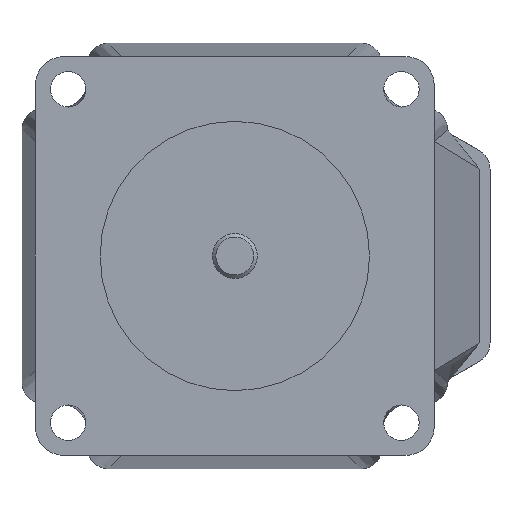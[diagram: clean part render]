
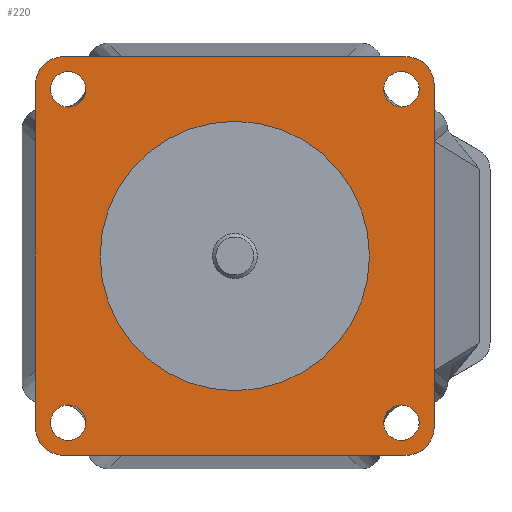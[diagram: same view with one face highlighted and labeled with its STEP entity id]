
A CAD part, left-side view. The second image highlights one B-rep face of the part: STEP entity #220.
In plain terms, the highlighted planar face has unit normal (-1, 0, 0).
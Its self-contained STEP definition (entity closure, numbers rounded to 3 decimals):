
#220 = ADVANCED_FACE( '', ( #555, #556, #557, #558, #559, #560 ), #561, .T. );
#555 = FACE_BOUND( '', #2549, .T. );
#556 = FACE_BOUND( '', #2550, .T. );
#557 = FACE_BOUND( '', #2551, .T. );
#558 = FACE_BOUND( '', #2552, .T. );
#559 = FACE_OUTER_BOUND( '', #2553, .T. );
#560 = FACE_BOUND( '', #2554, .T. );
#561 = PLANE( '', #2555 );
#2549 = EDGE_LOOP( '', ( #3613 ) );
#2550 = EDGE_LOOP( '', ( #3614 ) );
#2551 = EDGE_LOOP( '', ( #3615 ) );
#2552 = EDGE_LOOP( '', ( #3616 ) );
#2553 = EDGE_LOOP( '', ( #3617, #3618, #3619, #3620, #3621, #3622, #3623, #3624 ) );
#2554 = EDGE_LOOP( '', ( #3625 ) );
#2555 = AXIS2_PLACEMENT_3D( '', #3626, #3627, #3628 );
#3613 = ORIENTED_EDGE( '', *, *, #3824, .F. );
#3614 = ORIENTED_EDGE( '', *, *, #3832, .F. );
#3615 = ORIENTED_EDGE( '', *, *, #3834, .F. );
#3616 = ORIENTED_EDGE( '', *, *, #3836, .F. );
#3617 = ORIENTED_EDGE( '', *, *, #3710, .T. );
#3618 = ORIENTED_EDGE( '', *, *, #3997, .T. );
#3619 = ORIENTED_EDGE( '', *, *, #3895, .T. );
#3620 = ORIENTED_EDGE( '', *, *, #3998, .T. );
#3621 = ORIENTED_EDGE( '', *, *, #3940, .T. );
#3622 = ORIENTED_EDGE( '', *, *, #3999, .T. );
#3623 = ORIENTED_EDGE( '', *, *, #3924, .T. );
#3624 = ORIENTED_EDGE( '', *, *, #4000, .T. );
#3625 = ORIENTED_EDGE( '', *, *, #4001, .F. );
#3626 = CARTESIAN_POINT( '', ( -98., 24.2, 24.2 ) );
#3627 = DIRECTION( '', ( -1., 0., 0. ) );
#3628 = DIRECTION( '', ( 0., 0., 1. ) );
#3710 = EDGE_CURVE( '', #4095, #4093, #4096, .T. );
#3824 = EDGE_CURVE( '', #4296, #4296, #4297, .T. );
#3832 = EDGE_CURVE( '', #4308, #4308, #4309, .T. );
#3834 = EDGE_CURVE( '', #4312, #4312, #4313, .T. );
#3836 = EDGE_CURVE( '', #4316, #4316, #4317, .T. );
#3895 = EDGE_CURVE( '', #4415, #4413, #4416, .T. );
#3924 = EDGE_CURVE( '', #4467, #4465, #4468, .T. );
#3940 = EDGE_CURVE( '', #4492, #4490, #4493, .T. );
#3997 = EDGE_CURVE( '', #4093, #4415, #4572, .T. );
#3998 = EDGE_CURVE( '', #4413, #4492, #4573, .T. );
#3999 = EDGE_CURVE( '', #4490, #4467, #4574, .T. );
#4000 = EDGE_CURVE( '', #4465, #4095, #4575, .T. );
#4001 = EDGE_CURVE( '', #4576, #4576, #4577, .T. );
#4093 = VERTEX_POINT( '', #4745 );
#4095 = VERTEX_POINT( '', #4748 );
#4096 = LINE( '', #4749, #4750 );
#4296 = VERTEX_POINT( '', #5061 );
#4297 = CIRCLE( '', #5062, 2.5 );
#4308 = VERTEX_POINT( '', #5077 );
#4309 = CIRCLE( '', #5078, 2.5 );
#4312 = VERTEX_POINT( '', #5081 );
#4313 = CIRCLE( '', #5082, 2.5 );
#4316 = VERTEX_POINT( '', #5085 );
#4317 = CIRCLE( '', #5086, 2.5 );
#4413 = VERTEX_POINT( '', #5305 );
#4415 = VERTEX_POINT( '', #5308 );
#4416 = LINE( '', #5309, #5310 );
#4465 = VERTEX_POINT( '', #5429 );
#4467 = VERTEX_POINT( '', #5432 );
#4468 = LINE( '', #5433, #5434 );
#4490 = VERTEX_POINT( '', #5469 );
#4492 = VERTEX_POINT( '', #5472 );
#4493 = LINE( '', #5473, #5474 );
#4572 = CIRCLE( '', #5631, 4. );
#4573 = CIRCLE( '', #5632, 4. );
#4574 = CIRCLE( '', #5633, 4. );
#4575 = CIRCLE( '', #5634, 4. );
#4576 = VERTEX_POINT( '', #5635 );
#4577 = CIRCLE( '', #5636, 19.05 );
#4745 = CARTESIAN_POINT( '', ( -98., 24.2, 28.2 ) );
#4748 = CARTESIAN_POINT( '', ( -98., -24.2, 28.2 ) );
#4749 = CARTESIAN_POINT( '', ( -98., -20.641, 28.2 ) );
#4750 = VECTOR( '', #5704, 1000. );
#5061 = CARTESIAN_POINT( '', ( -98., 23.57, 21.07 ) );
#5062 = AXIS2_PLACEMENT_3D( '', #5871, #5872, #5873 );
#5077 = CARTESIAN_POINT( '', ( -98., 23.57, -26.07 ) );
#5078 = AXIS2_PLACEMENT_3D( '', #5887, #5888, #5889 );
#5081 = CARTESIAN_POINT( '', ( -98., -23.57, -26.07 ) );
#5082 = AXIS2_PLACEMENT_3D( '', #5893, #5894, #5895 );
#5085 = CARTESIAN_POINT( '', ( -98., -23.57, 21.07 ) );
#5086 = AXIS2_PLACEMENT_3D( '', #5899, #5900, #5901 );
#5305 = CARTESIAN_POINT( '', ( -98., 28.2, -24.2 ) );
#5308 = CARTESIAN_POINT( '', ( -98., 28.2, 24.2 ) );
#5309 = CARTESIAN_POINT( '', ( -98., 28.2, 24.2 ) );
#5310 = VECTOR( '', #5948, 1000. );
#5429 = CARTESIAN_POINT( '', ( -98., -28.2, 24.2 ) );
#5432 = CARTESIAN_POINT( '', ( -98., -28.2, -24.2 ) );
#5433 = CARTESIAN_POINT( '', ( -98., -28.2, -20.641 ) );
#5434 = VECTOR( '', #5961, 1000. );
#5469 = CARTESIAN_POINT( '', ( -98., -24.2, -28.2 ) );
#5472 = CARTESIAN_POINT( '', ( -98., 24.2, -28.2 ) );
#5473 = CARTESIAN_POINT( '', ( -98., 24.2, -28.2 ) );
#5474 = VECTOR( '', #5979, 1000. );
#5631 = AXIS2_PLACEMENT_3D( '', #6047, #6048, #6049 );
#5632 = AXIS2_PLACEMENT_3D( '', #6050, #6051, #6052 );
#5633 = AXIS2_PLACEMENT_3D( '', #6053, #6054, #6055 );
#5634 = AXIS2_PLACEMENT_3D( '', #6056, #6057, #6058 );
#5635 = CARTESIAN_POINT( '', ( -98., -19.05, 0. ) );
#5636 = AXIS2_PLACEMENT_3D( '', #6059, #6060, #6061 );
#5704 = DIRECTION( '', ( 0., 1., 0. ) );
#5871 = CARTESIAN_POINT( '', ( -98., 23.57, 23.57 ) );
#5872 = DIRECTION( '', ( -1., 0., 0. ) );
#5873 = DIRECTION( '', ( 0., 0., -1. ) );
#5887 = CARTESIAN_POINT( '', ( -98., 23.57, -23.57 ) );
#5888 = DIRECTION( '', ( -1., 0., 0. ) );
#5889 = DIRECTION( '', ( 0., 0., -1. ) );
#5893 = CARTESIAN_POINT( '', ( -98., -23.57, -23.57 ) );
#5894 = DIRECTION( '', ( -1., 0., 0. ) );
#5895 = DIRECTION( '', ( 0., 0., -1. ) );
#5899 = CARTESIAN_POINT( '', ( -98., -23.57, 23.57 ) );
#5900 = DIRECTION( '', ( -1., 0., 0. ) );
#5901 = DIRECTION( '', ( 0., 0., -1. ) );
#5948 = DIRECTION( '', ( 0., 0., -1. ) );
#5961 = DIRECTION( '', ( 0., 0., 1. ) );
#5979 = DIRECTION( '', ( 0., -1., 0. ) );
#6047 = CARTESIAN_POINT( '', ( -98., 24.2, 24.2 ) );
#6048 = DIRECTION( '', ( -1., 0., 0. ) );
#6049 = DIRECTION( '', ( 0., -1., 0. ) );
#6050 = CARTESIAN_POINT( '', ( -98., 24.2, -24.2 ) );
#6051 = DIRECTION( '', ( -1., 0., 0. ) );
#6052 = DIRECTION( '', ( 0., -1., 0. ) );
#6053 = CARTESIAN_POINT( '', ( -98., -24.2, -24.2 ) );
#6054 = DIRECTION( '', ( -1., 0., 0. ) );
#6055 = DIRECTION( '', ( 0., 1., 0. ) );
#6056 = CARTESIAN_POINT( '', ( -98., -24.2, 24.2 ) );
#6057 = DIRECTION( '', ( -1., 0., 0. ) );
#6058 = DIRECTION( '', ( 0., -1., 0. ) );
#6059 = CARTESIAN_POINT( '', ( -98., 0., 0. ) );
#6060 = DIRECTION( '', ( -1., 0., 0. ) );
#6061 = DIRECTION( '', ( 0., -1., 0. ) );
